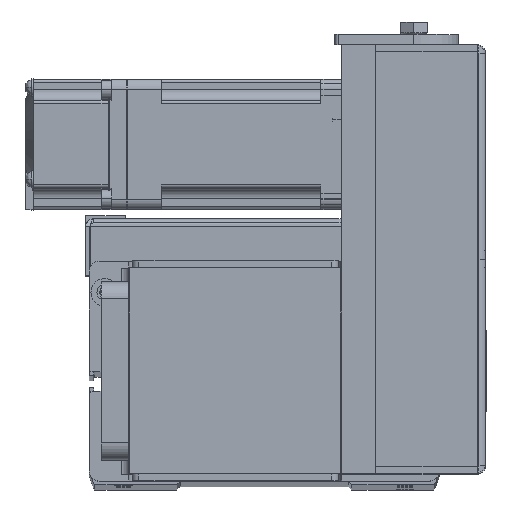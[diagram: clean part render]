
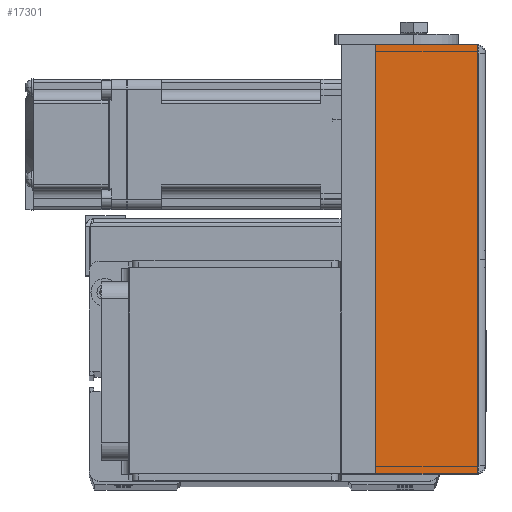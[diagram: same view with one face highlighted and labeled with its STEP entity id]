
A CAD part, top view. The second image highlights one B-rep face of the part: STEP entity #17301.
In plain terms, the highlighted planar face has unit normal (0, 0, 1) as drawn and (0, 0, -1) by its records, which use the part's own axes.
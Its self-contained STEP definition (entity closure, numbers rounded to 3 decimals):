
#700 = EDGE_CURVE ( 'NONE', #19744, #34237, #22330, .T. ) ;
#3760 = CARTESIAN_POINT ( 'NONE',  ( 0., -30., -31. ) ) ;
#3950 = FACE_OUTER_BOUND ( 'NONE', #20887, .T. ) ;
#4009 = CARTESIAN_POINT ( 'NONE',  ( 62.5, 0., -31. ) ) ;
#4262 = DIRECTION ( 'NONE',  ( 1., 0., 0. ) ) ;
#4560 = DIRECTION ( 'NONE',  ( 0., 1., 0. ) ) ;
#4714 = LINE ( 'NONE', #7394, #7604 ) ;
#5078 = VERTEX_POINT ( 'NONE', #34982 ) ;
#5311 = EDGE_CURVE ( 'NONE', #5078, #34237, #30494, .T. ) ;
#7122 = VECTOR ( 'NONE', #4262, 1000. ) ;
#7394 = CARTESIAN_POINT ( 'NONE',  ( -62.5, -29.5, -31. ) ) ;
#7604 = VECTOR ( 'NONE', #24812, 1000. ) ;
#9865 = DIRECTION ( 'NONE',  ( 0., 1., 0. ) ) ;
#11247 = ORIENTED_EDGE ( 'NONE', *, *, #5311, .T. ) ;
#12174 = ORIENTED_EDGE ( 'NONE', *, *, #700, .F. ) ;
#15315 = VECTOR ( 'NONE', #4560, 1000. ) ;
#17107 = VECTOR ( 'NONE', #29179, 1000. ) ;
#17301 = ADVANCED_FACE ( 'NONE', ( #3950 ), #33109, .F. ) ;
#18721 = ORIENTED_EDGE ( 'NONE', *, *, #33846, .F. ) ;
#19744 = VERTEX_POINT ( 'NONE', #30423 ) ;
#20887 = EDGE_LOOP ( 'NONE', ( #18721, #37517, #11247, #12174 ) ) ;
#22330 = LINE ( 'NONE', #36580, #15315 ) ;
#24812 = DIRECTION ( 'NONE',  ( 0., 1., 0. ) ) ;
#25452 = EDGE_CURVE ( 'NONE', #35626, #5078, #4714, .T. ) ;
#28001 = CARTESIAN_POINT ( 'NONE',  ( 0., 0., -31. ) ) ;
#29179 = DIRECTION ( 'NONE',  ( 1., 0., 0. ) ) ;
#29924 = LINE ( 'NONE', #32456, #17107 ) ;
#30423 = CARTESIAN_POINT ( 'NONE',  ( 62.5, -29.5, -31. ) ) ;
#30494 = LINE ( 'NONE', #28001, #7122 ) ;
#32025 = AXIS2_PLACEMENT_3D ( 'NONE', #3760, #33297, #9865 ) ;
#32456 = CARTESIAN_POINT ( 'NONE',  ( 62.5, -29.5, -31. ) ) ;
#33109 = PLANE ( 'NONE',  #32025 ) ;
#33297 = DIRECTION ( 'NONE',  ( 0., 0., 1. ) ) ;
#33846 = EDGE_CURVE ( 'NONE', #35626, #19744, #29924, .T. ) ;
#34237 = VERTEX_POINT ( 'NONE', #4009 ) ;
#34982 = CARTESIAN_POINT ( 'NONE',  ( -62.5, 0., -31. ) ) ;
#35626 = VERTEX_POINT ( 'NONE', #35911 ) ;
#35911 = CARTESIAN_POINT ( 'NONE',  ( -62.5, -29.5, -31. ) ) ;
#36580 = CARTESIAN_POINT ( 'NONE',  ( 62.5, -29.5, -31. ) ) ;
#37517 = ORIENTED_EDGE ( 'NONE', *, *, #25452, .T. ) ;
